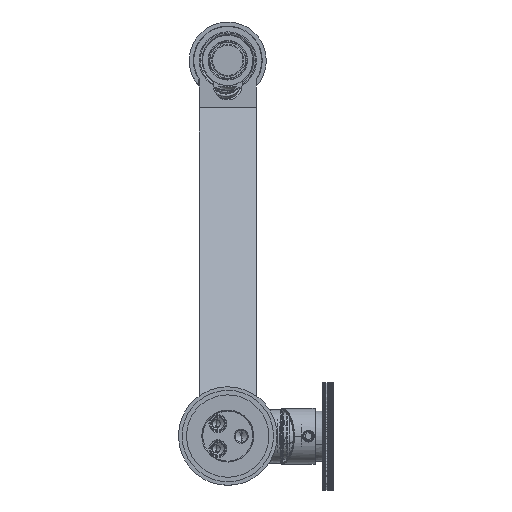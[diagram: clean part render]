
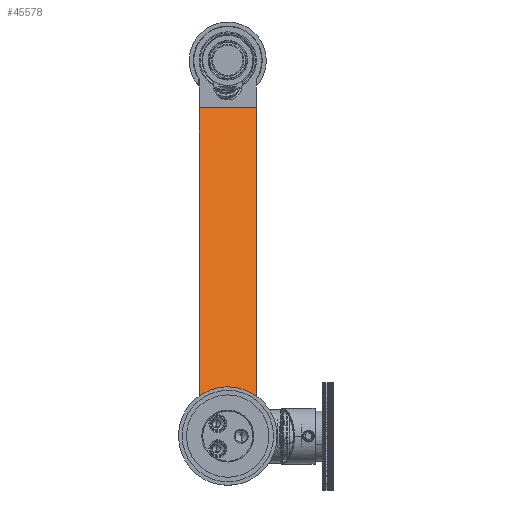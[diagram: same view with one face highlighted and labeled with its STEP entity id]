
A CAD part, top view. The second image highlights one B-rep face of the part: STEP entity #45578.
In plain terms, the highlighted planar face has unit normal (0, 0.342, 0.94) as drawn and (-0.342, 0, -0.94) by its records, which use the part's own axes.
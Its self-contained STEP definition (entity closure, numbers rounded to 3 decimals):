
#1836 = CARTESIAN_POINT ( 'NONE',  ( -3.241, 0., -8.419 ) ) ;
#2508 = CARTESIAN_POINT ( 'NONE',  ( -16.21, -16., -3.698 ) ) ;
#5367 = CARTESIAN_POINT ( 'NONE',  ( -16.21, 16., -3.698 ) ) ;
#9302 = ORIENTED_EDGE ( 'NONE', *, *, #79599, .F. ) ;
#9691 = LINE ( 'NONE', #39850, #30734 ) ;
#9726 = VERTEX_POINT ( 'NONE', #2508 ) ;
#11762 = VECTOR ( 'NONE', #58177, 1000. ) ;
#12488 = LINE ( 'NONE', #57958, #29047 ) ;
#13654 = AXIS2_PLACEMENT_3D ( 'NONE', #1836, #95113, #78351 ) ;
#18126 = ORIENTED_EDGE ( 'NONE', *, *, #25787, .F. ) ;
#19739 = EDGE_CURVE ( 'NONE', #68688, #9726, #65526, .T. ) ;
#20566 = DIRECTION ( 'NONE',  ( 0., -1., 0. ) ) ;
#25787 = EDGE_CURVE ( 'NONE', #68688, #90945, #12488, .T. ) ;
#29047 = VECTOR ( 'NONE', #72743, 1000. ) ;
#30734 = VECTOR ( 'NONE', #93971, 1000. ) ;
#38204 = CARTESIAN_POINT ( 'NONE',  ( -182.083, 16., 56.674 ) ) ;
#39400 = FACE_OUTER_BOUND ( 'NONE', #52136, .T. ) ;
#39850 = CARTESIAN_POINT ( 'NONE',  ( -182.083, -16., 56.674 ) ) ;
#45385 = VERTEX_POINT ( 'NONE', #68035 ) ;
#45578 = ADVANCED_FACE ( 'NONE', ( #39400 ), #69486, .T. ) ;
#51771 = CARTESIAN_POINT ( 'NONE',  ( -16.044, -16., -3.759 ) ) ;
#52136 = EDGE_LOOP ( 'NONE', ( #18126, #75698, #89737, #9302 ) ) ;
#57958 = CARTESIAN_POINT ( 'NONE',  ( -182.083, 16., 56.674 ) ) ;
#58177 = DIRECTION ( 'NONE',  ( 0.94, 0., -0.342 ) ) ;
#58673 = LINE ( 'NONE', #51771, #11762 ) ;
#65526 = LINE ( 'NONE', #88209, #95007 ) ;
#68035 = CARTESIAN_POINT ( 'NONE',  ( -182.083, -16., 56.674 ) ) ;
#68688 = VERTEX_POINT ( 'NONE', #5367 ) ;
#69486 = PLANE ( 'NONE',  #13654 ) ;
#72743 = DIRECTION ( 'NONE',  ( -0.94, 0., 0.342 ) ) ;
#75698 = ORIENTED_EDGE ( 'NONE', *, *, #19739, .T. ) ;
#78351 = DIRECTION ( 'NONE',  ( -0.94, 0., 0.342 ) ) ;
#79428 = EDGE_CURVE ( 'NONE', #45385, #9726, #58673, .T. ) ;
#79599 = EDGE_CURVE ( 'NONE', #90945, #45385, #9691, .T. ) ;
#88209 = CARTESIAN_POINT ( 'NONE',  ( -16.21, 0., -3.698 ) ) ;
#89737 = ORIENTED_EDGE ( 'NONE', *, *, #79428, .F. ) ;
#90945 = VERTEX_POINT ( 'NONE', #38204 ) ;
#93971 = DIRECTION ( 'NONE',  ( 0., -1., 0. ) ) ;
#95007 = VECTOR ( 'NONE', #20566, 1000. ) ;
#95113 = DIRECTION ( 'NONE',  ( -0.342, 0., -0.94 ) ) ;
